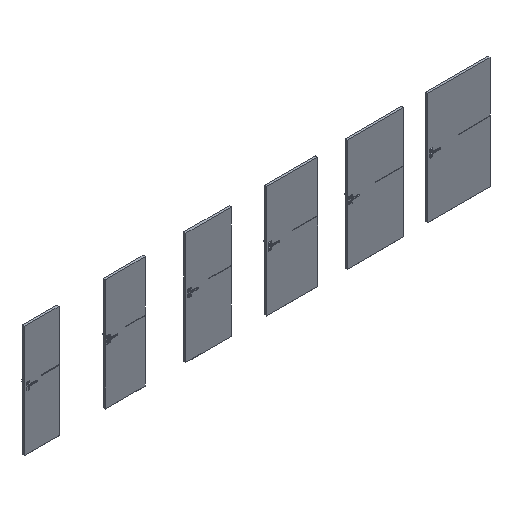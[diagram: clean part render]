
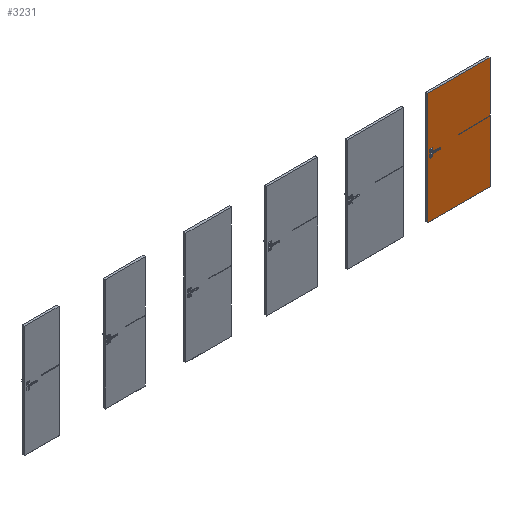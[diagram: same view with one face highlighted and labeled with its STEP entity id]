
A CAD part, isometric view. The second image highlights one B-rep face of the part: STEP entity #3231.
In plain terms, the highlighted planar face has unit normal (0, -1, 0).
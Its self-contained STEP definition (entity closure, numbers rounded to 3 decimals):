
#2085=FACE_OUTER_BOUND('',#5889,.T.);
#3231=ADVANCED_FACE('',(#2085),#4027,.F.);
#4027=PLANE('',#19617);
#4683=CIRCLE('',#19616,3.);
#5889=EDGE_LOOP('',(#9503,#9504,#9505,#9506,#9507,#9508,#9509,#9510));
#9503=ORIENTED_EDGE('',*,*,#14643,.F.);
#9504=ORIENTED_EDGE('',*,*,#14644,.T.);
#9505=ORIENTED_EDGE('',*,*,#14645,.F.);
#9506=ORIENTED_EDGE('',*,*,#14646,.F.);
#9507=ORIENTED_EDGE('',*,*,#14647,.T.);
#9508=ORIENTED_EDGE('',*,*,#14648,.T.);
#9509=ORIENTED_EDGE('',*,*,#14649,.F.);
#9510=ORIENTED_EDGE('',*,*,#14650,.F.);
#12481=VERTEX_POINT('',#33388);
#12482=VERTEX_POINT('',#33389);
#12483=VERTEX_POINT('',#33391);
#12484=VERTEX_POINT('',#33393);
#12485=VERTEX_POINT('',#33395);
#12486=VERTEX_POINT('',#33397);
#12487=VERTEX_POINT('',#33399);
#12488=VERTEX_POINT('',#33401);
#14643=EDGE_CURVE('',#12481,#12482,#4683,.T.);
#14644=EDGE_CURVE('',#12481,#12483,#16561,.T.);
#14645=EDGE_CURVE('',#12484,#12483,#16562,.T.);
#14646=EDGE_CURVE('',#12485,#12484,#16563,.T.);
#14647=EDGE_CURVE('',#12485,#12486,#16564,.T.);
#14648=EDGE_CURVE('',#12486,#12487,#16565,.T.);
#14649=EDGE_CURVE('',#12488,#12487,#16566,.T.);
#14650=EDGE_CURVE('',#12482,#12488,#16567,.T.);
#16561=LINE('',#33390,#18013);
#16562=LINE('',#33392,#18014);
#16563=LINE('',#33394,#18015);
#16564=LINE('',#33396,#18016);
#16565=LINE('',#33398,#18017);
#16566=LINE('',#33400,#18018);
#16567=LINE('',#33402,#18019);
#18013=VECTOR('',#23310,1.);
#18014=VECTOR('',#23311,1.);
#18015=VECTOR('',#23312,1.);
#18016=VECTOR('',#23313,1.);
#18017=VECTOR('',#23314,1.);
#18018=VECTOR('',#23315,1.);
#18019=VECTOR('',#23316,1.);
#19616=AXIS2_PLACEMENT_3D('',#33387,#23308,#23309);
#19617=AXIS2_PLACEMENT_3D('',#33403,#23317,#23318);
#23308=DIRECTION('',(0.,-1.,0.));
#23309=DIRECTION('',(1.,0.,0.));
#23310=DIRECTION('',(1.,0.,0.));
#23311=DIRECTION('',(0.,0.,-1.));
#23312=DIRECTION('',(1.,0.,0.));
#23313=DIRECTION('',(0.,0.,-1.));
#23314=DIRECTION('',(1.,0.,0.));
#23315=DIRECTION('',(0.,0.,-1.));
#23316=DIRECTION('',(1.,0.,0.));
#23317=DIRECTION('',(0.,1.,0.));
#23318=DIRECTION('',(-1.,0.,0.));
#33387=CARTESIAN_POINT('',(7503.,-39.3,1104.));
#33388=CARTESIAN_POINT('',(7503.,-39.3,1107.));
#33389=CARTESIAN_POINT('',(7503.,-39.3,1101.));
#33390=CARTESIAN_POINT('',(8059.,-39.3,1107.));
#33391=CARTESIAN_POINT('',(8059.,-39.3,1107.));
#33392=CARTESIAN_POINT('',(8059.,-39.3,2017.));
#33393=CARTESIAN_POINT('',(8059.,-39.3,2017.));
#33394=CARTESIAN_POINT('',(7191.,-39.3,2017.));
#33395=CARTESIAN_POINT('',(6941.,-39.3,2017.));
#33396=CARTESIAN_POINT('',(6941.,-39.3,2017.));
#33397=CARTESIAN_POINT('',(6941.,-39.3,2.));
#33398=CARTESIAN_POINT('',(7191.,-39.3,2.));
#33399=CARTESIAN_POINT('',(8059.,-39.3,2.));
#33400=CARTESIAN_POINT('',(8059.,-39.3,2017.));
#33401=CARTESIAN_POINT('',(8059.,-39.3,1101.));
#33402=CARTESIAN_POINT('',(8059.,-39.3,1101.));
#33403=CARTESIAN_POINT('',(7191.,-39.3,2017.));
